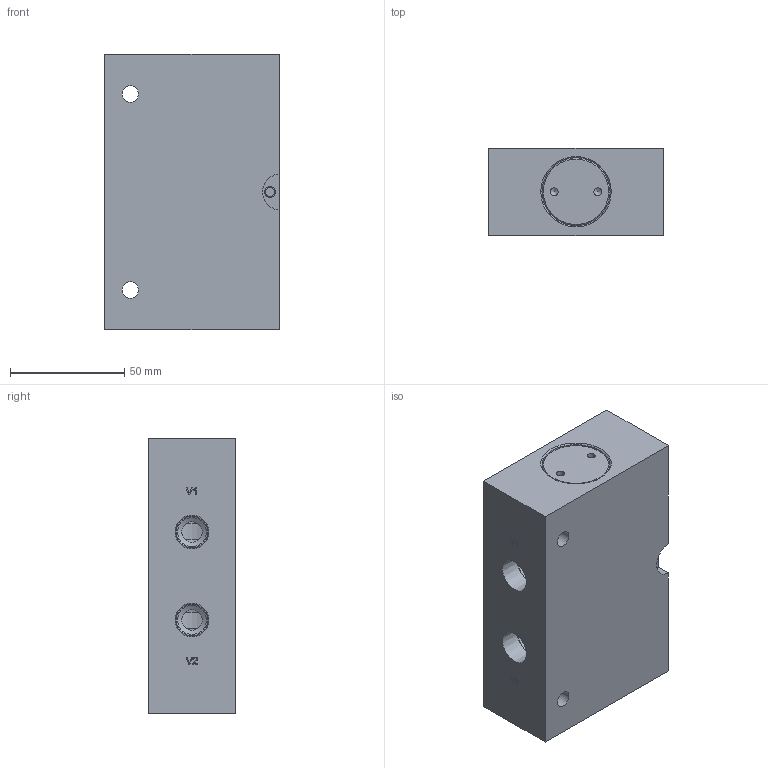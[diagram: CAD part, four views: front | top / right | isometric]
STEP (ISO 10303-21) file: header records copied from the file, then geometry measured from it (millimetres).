
FILE_DESCRIPTION(/* description */ (''),/* implementation_level */ '2;1');
FILE_NAME(/* name */ 'L:\ALADCO\Advertising\3D Content\Valves\Step Files - 2014-11-19 thru Present\61380X.stp',/* time_stamp */ '2014-11-20T09:32:14-06:00',/* author */ ('dmatz'),/* organization */ ('Aladdin Eng. & Manf. Inc.'),/* preprocessor_version */ 'ST-DEVELOPER v15.2',/* originating_system */ 'Autodesk Inventor 2014',/* authorisation */ '0 in^3');
FILE_SCHEMA (('AUTOMOTIVE_DESIGN { 1 0 10303 214 3 1 1 }'));
Length unit declared in the file: inch
Products named in the file (8): 620054; 620025; 620047; 620046; 620059; 620058; 710-073SS; 613801
Bounding box: 76.2 x 38.1 x 120.65 mm (x, y, z)
Volume: 283817.6 mm3; surface area: 65028 mm2
Topology: 10 solids, 10 shells, 399 faces, 998 edges, 646 vertices
Faces by surface type: plane 165, cylinder 109, bspline 66, cone 52, torus 7
Full cylindrical faces by diameter (mm): 1.575 x2, 1.588 x2, 2.54 x1, 2.642 x4, 2.794 x2, 3.175 x2, 3.2 x2, 3.454 x4, 3.505 x4, 3.81 x8, 4.013 x1, 4.648 x1, 4.762 x1, 5.563 x2, 5.74 x4, 6.35 x4, 6.477 x2, 7.144 x2, 8.992 x4, 12.7 x4, 13.081 x2, 13.894 x4, 16.129 x2, 21.107 x2, 25.4 x1, 26.035 x2, 28.524 x4, 28.575 x4, 29.591 x2, 29.766 x2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
Entity records: 9923 total; most frequent: CARTESIAN_POINT 3127, ORIENTED_EDGE 1234, DIRECTION 1188, EDGE_CURVE 617, EDGE_LOOP 486, AXIS2_PLACEMENT_3D 460, VERTEX_POINT 457, ADVANCED_FACE 306
